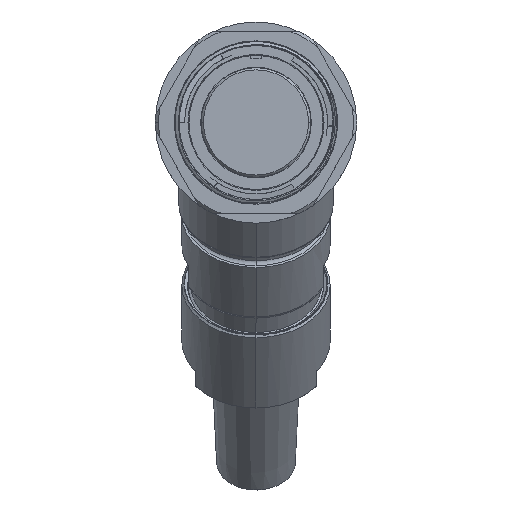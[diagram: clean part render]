
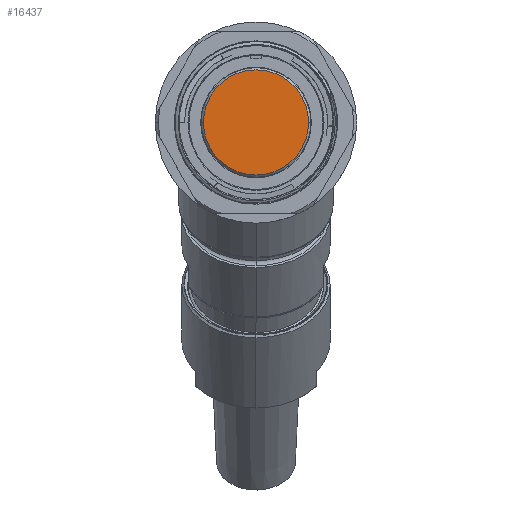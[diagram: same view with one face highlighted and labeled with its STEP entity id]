
A CAD part, top view. The second image highlights one B-rep face of the part: STEP entity #16437.
In plain terms, the highlighted planar face has unit normal (0, 0, 1).
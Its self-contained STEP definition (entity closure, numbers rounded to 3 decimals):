
#90 = CARTESIAN_POINT ( 'NONE',  ( 0., 0., -0.457 ) ) ;
#1414 = FACE_OUTER_BOUND ( 'NONE', #7258, .T. ) ;
#2106 = EDGE_CURVE ( 'NONE', #21715, #19708, #19922, .T. ) ;
#3181 = DIRECTION ( 'NONE',  ( 0., 0., 1. ) ) ;
#3699 = AXIS2_PLACEMENT_3D ( 'NONE', #18441, #10034, #21559 ) ;
#5838 = ORIENTED_EDGE ( 'NONE', *, *, #6226, .T. ) ;
#6009 = DIRECTION ( 'NONE',  ( 1., 0., 0. ) ) ;
#6226 = EDGE_CURVE ( 'NONE', #19708, #21715, #19947, .T. ) ;
#6488 = CARTESIAN_POINT ( 'NONE',  ( -12.383, 0., -0.457 ) ) ;
#7258 = EDGE_LOOP ( 'NONE', ( #20106, #5838 ) ) ;
#8984 = AXIS2_PLACEMENT_3D ( 'NONE', #90, #3181, #16669 ) ;
#10034 = DIRECTION ( 'NONE',  ( 0., 0., 1. ) ) ;
#11450 = AXIS2_PLACEMENT_3D ( 'NONE', #14606, #19590, #6009 ) ;
#14606 = CARTESIAN_POINT ( 'NONE',  ( 0., 0., -0.457 ) ) ;
#15215 = PLANE ( 'NONE',  #8984 ) ;
#16437 = ADVANCED_FACE ( 'NONE', ( #1414 ), #15215, .T. ) ;
#16669 = DIRECTION ( 'NONE',  ( 1., 0., 0. ) ) ;
#18441 = CARTESIAN_POINT ( 'NONE',  ( 0., 0., -0.457 ) ) ;
#19590 = DIRECTION ( 'NONE',  ( 0., 0., 1. ) ) ;
#19708 = VERTEX_POINT ( 'NONE', #20453 ) ;
#19922 = CIRCLE ( 'NONE', #11450, 12.383 ) ;
#19947 = CIRCLE ( 'NONE', #3699, 12.383 ) ;
#20106 = ORIENTED_EDGE ( 'NONE', *, *, #2106, .T. ) ;
#20453 = CARTESIAN_POINT ( 'NONE',  ( 12.383, 0., -0.457 ) ) ;
#21559 = DIRECTION ( 'NONE',  ( 1., 0., 0. ) ) ;
#21715 = VERTEX_POINT ( 'NONE', #6488 ) ;
